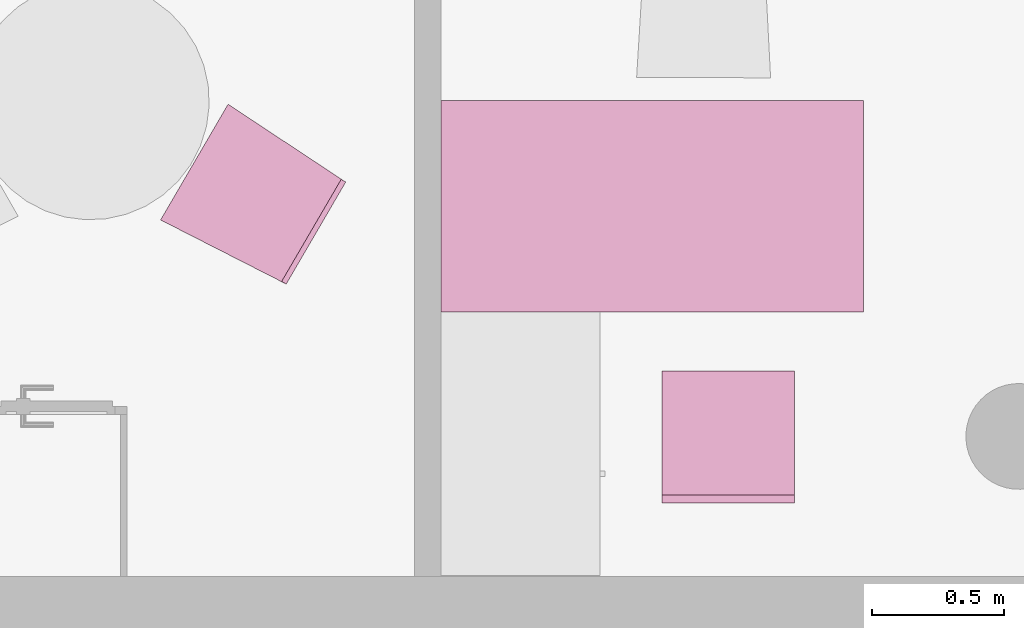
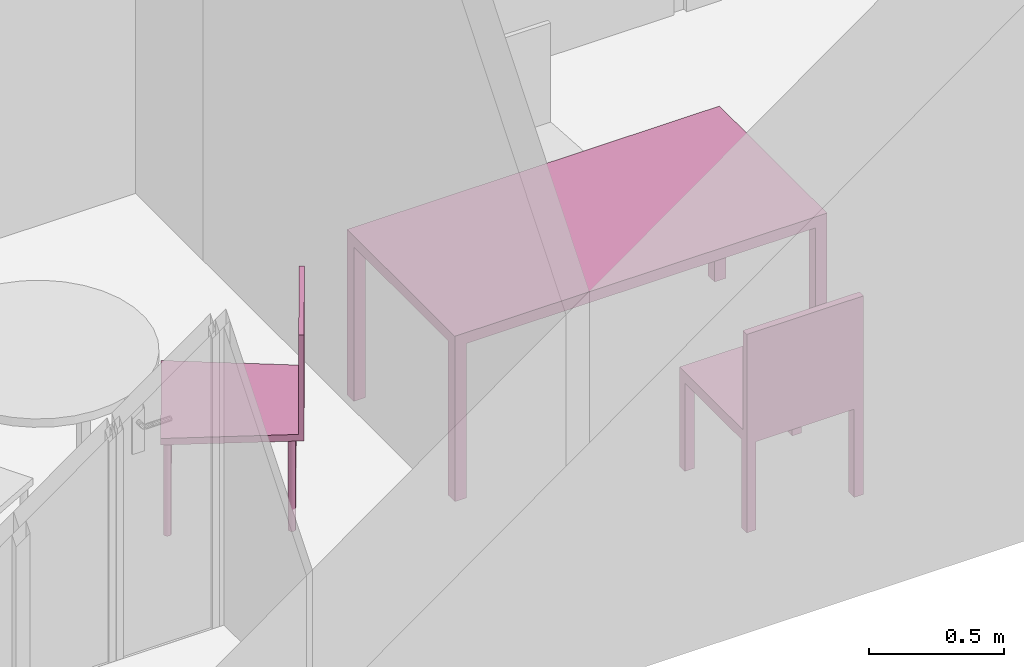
"""IFC4 building model written with IfcOpenShell, lengths in metres."""

from ifc_helpers import new_model, entity, si_unit, converted_unit, derived_unit, frame, origin, place, context, subcontext, project, spatial, faceted_brep, element, save


model = new_model("IFC4")

# Units and contexts
model_context = context("Model", 3, precision=1e-05, world=origin())
body_context = subcontext(model_context, "Body", "Model", "MODEL_VIEW")
ifc_project = project(units=[si_unit("LENGTHUNIT", "METRE"), si_unit("AREAUNIT", "SQUARE_METRE"), si_unit("VOLUMEUNIT", "CUBIC_METRE"), si_unit("MASSUNIT", "GRAM", prefix="KILO"), converted_unit("PLANEANGLEUNIT", "DEGREE", entity("IfcPlaneAngleMeasure", 0.0174532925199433), si_unit("PLANEANGLEUNIT", "RADIAN"), dimensions=[0, 0, 0, 0, 0, 0, 0]), derived_unit("THERMALTRANSMITTANCEUNIT", [(si_unit("POWERUNIT", "WATT"), 1), (si_unit("THERMODYNAMICTEMPERATUREUNIT", "KELVIN"), -1), (si_unit("LENGTHUNIT", "METRE"), -2)]), derived_unit("VOLUMETRICFLOWRATEUNIT", [(si_unit("LENGTHUNIT", "METRE"), 3), (converted_unit("TIMEUNIT", "hour", entity("IfcTimeMeasure", 3600.0), si_unit("TIMEUNIT", "SECOND"), dimensions=[0, 0, 1, 0, 0, 0, 0]), -1), (si_unit("LENGTHUNIT", "METRE"), -1)])], contexts=[model_context])

# Building, storeys
building_placement = place(None, origin())
building = spatial("IfcBuilding", under=ifc_project, at=building_placement, Name="HABITATGE PLURIFAMILIAR", CompositionType="ELEMENT")
storey_1_placement = place(building_placement, frame((0.0, 0.0, 9.26)))
storey_1 = spatial("IfcBuildingStorey", under=building, at=storey_1_placement, Name="PLANTA SEGONA", CompositionType="ELEMENT", Elevation=9.26)
storey_2_placement = place(storey_1_placement, frame((0.0, 0.0, 6.25)))
storey_2 = spatial("IfcBuildingStorey", under=storey_1, at=storey_2_placement, Name="NOU", CompositionType="PARTIAL")

# Furniture
furniture_1_placement = place(storey_2_placement, frame((408.549312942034, 14.1196401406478, -6.3499999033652)))
element("IfcFurniture", 1, at=furniture_1_placement, inside=storey_2, Name="Taula 160X80_P2", context=body_context, shape_type="Brep", body=[
    faceted_brep([(1.546945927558, 0.750069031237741, 0.0), (1.596945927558, 0.750069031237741, 0.0), (1.596945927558, 0.800069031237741, 0.0), (1.546945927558, 0.800069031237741, 0.0), (1.546945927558, 0.800069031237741, 0.7), (1.596945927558, 0.800069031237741, 0.7), (1.596945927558, 0.750069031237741, 0.7), (1.546945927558, 0.750069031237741, 0.7)], [[[0, 1, 2, 3]], [[4, 5, 6, 7]], [[3, 4, 7, 0]], [[2, 5, 4, 3]], [[1, 6, 5, 2]], [[0, 7, 6, 1]]], orient=[[False], [False], [False], [False], [False], [False]]),
    faceted_brep([(1.546945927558, 0.0, 0.0), (1.596945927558, 0.0, 0.0), (1.596945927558, 0.05, 0.0), (1.546945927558, 0.05, 0.0), (1.546945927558, 0.05, 0.7), (1.596945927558, 0.05, 0.7), (1.596945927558, 0.0, 0.7), (1.546945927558, 0.0, 0.7)], [[[0, 1, 2, 3]], [[4, 5, 6, 7]], [[3, 4, 7, 0]], [[2, 5, 4, 3]], [[1, 6, 5, 2]], [[0, 7, 6, 1]]], orient=[[False], [False], [False], [False], [False], [False]]),
    faceted_brep([(0.0, 0.0, 0.7), (1.596945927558, 0.0, 0.7), (1.596945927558, 0.800069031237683, 0.7), (0.0, 0.800069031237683, 0.7), (0.0, 0.800069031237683, 0.75), (1.596945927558, 0.800069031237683, 0.75), (1.596945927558, 0.0, 0.75), (0.0, 0.0, 0.75)], [[[0, 1, 2, 3]], [[4, 5, 6, 7]], [[3, 4, 7, 0]], [[2, 5, 4, 3]], [[1, 6, 5, 2]], [[0, 7, 6, 1]]], orient=[[False], [False], [False], [False], [False], [False]]),
    faceted_brep([(0.0, 0.750069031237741, 0.0), (0.05, 0.750069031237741, 0.0), (0.05, 0.800069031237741, 0.0), (0.0, 0.800069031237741, 0.0), (0.0, 0.800069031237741, 0.7), (0.05, 0.800069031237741, 0.7), (0.05, 0.750069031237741, 0.7), (0.0, 0.750069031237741, 0.7)], [[[0, 1, 2, 3]], [[4, 5, 6, 7]], [[3, 4, 7, 0]], [[2, 5, 4, 3]], [[1, 6, 5, 2]], [[0, 7, 6, 1]]], orient=[[False], [False], [False], [False], [False], [False]]),
    faceted_brep([(0.0, 0.0, 0.0), (0.05, 0.0, 0.0), (0.05, 0.05, 0.0), (0.0, 0.05, 0.0), (0.0, 0.05, 0.7), (0.05, 0.05, 0.7), (0.05, 0.0, 0.7), (0.0, 0.0, 0.7)], [[[0, 1, 2, 3]], [[4, 5, 6, 7]], [[3, 4, 7, 0]], [[2, 5, 4, 3]], [[1, 6, 5, 2]], [[0, 7, 6, 1]]], orient=[[False], [False], [False], [False], [False], [False]]),
])
furniture_2_placement = place(storey_2_placement, frame((409.385012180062, 13.3976027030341, -6.34632642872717)))
element("IfcFurniture", 2, at=furniture_2_placement, inside=storey_2, Name="Cadira d'Oficina_P2", context=body_context, shape_type="Brep", body=[
    faceted_brep([(0.5, 0.5, 0.4), (0.0, 0.500000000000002, 0.4), (0.0, 0.0, 0.4), (0.5, 0.0, 0.4), (0.5, 0.0, 0.45), (0.0, 0.0, 0.45), (0.0, 0.500000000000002, 0.45), (0.5, 0.5, 0.45)], [[[0, 1, 2, 3]], [[4, 5, 6, 7]], [[3, 4, 7, 0]], [[2, 5, 4, 3]], [[1, 6, 5, 2]], [[0, 7, 6, 1]]], orient=[[False], [False], [False], [False], [False], [False]]),
    faceted_brep([(0.0, 0.0400000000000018, 0.0), (0.0, 0.0, 0.0), (0.04, 0.0, 0.0), (0.04, 0.0400000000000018, 0.0), (0.04, 0.0400000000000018, 0.4), (0.04, 0.0, 0.4), (0.0, 0.0, 0.4), (0.0, 0.0400000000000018, 0.4)], [[[0, 1, 2, 3]], [[4, 5, 6, 7]], [[3, 4, 7, 0]], [[2, 5, 4, 3]], [[1, 6, 5, 2]], [[0, 7, 6, 1]]], orient=[[False], [False], [False], [False], [False], [False]]),
    faceted_brep([(0.0, 0.500000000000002, 0.0), (0.0, 0.460000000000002, 0.0), (0.04, 0.460000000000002, 0.0), (0.04, 0.500000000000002, 0.0), (0.04, 0.500000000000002, 0.4), (0.04, 0.460000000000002, 0.4), (0.0, 0.460000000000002, 0.4), (0.0, 0.500000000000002, 0.4)], [[[0, 1, 2, 3]], [[4, 5, 6, 7]], [[3, 4, 7, 0]], [[2, 5, 4, 3]], [[1, 6, 5, 2]], [[0, 7, 6, 1]]], orient=[[False], [False], [False], [False], [False], [False]]),
    faceted_brep([(0.46, 0.04, 0.0), (0.46, 0.0, 0.0), (0.5, 0.0, 0.0), (0.5, 0.04, 0.0), (0.5, 0.04, 0.4), (0.5, 0.0, 0.4), (0.46, 0.0, 0.4), (0.46, 0.04, 0.4)], [[[0, 1, 2, 3]], [[4, 5, 6, 7]], [[3, 4, 7, 0]], [[2, 5, 4, 3]], [[1, 6, 5, 2]], [[0, 7, 6, 1]]], orient=[[False], [False], [False], [False], [False], [False]]),
    faceted_brep([(0.46, 0.5, 0.0), (0.46, 0.46, 0.0), (0.5, 0.46, 0.0), (0.5, 0.5, 0.0), (0.5, 0.5, 0.4), (0.5, 0.46, 0.4), (0.46, 0.46, 0.4), (0.46, 0.5, 0.4)], [[[0, 1, 2, 3]], [[4, 5, 6, 7]], [[3, 4, 7, 0]], [[2, 5, 4, 3]], [[1, 6, 5, 2]], [[0, 7, 6, 1]]], orient=[[False], [False], [False], [False], [False], [False]]),
    faceted_brep([(0.0, 0.0300000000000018, 0.45), (0.0, 0.0, 0.45), (0.5, 0.0, 0.45), (0.5, 0.03, 0.45), (0.5, 0.03, 0.9), (0.5, 0.0, 0.9), (0.0, 0.0, 0.9), (0.0, 0.0300000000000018, 0.9)], [[[0, 1, 2, 3]], [[4, 5, 6, 7]], [[3, 4, 7, 0]], [[2, 5, 4, 3]], [[1, 6, 5, 2]], [[0, 7, 6, 1]]], orient=[[False], [False], [False], [False], [False], [False]]),
])
furniture_3_placement = place(storey_2_placement, frame((407.488532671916, 14.2255875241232, -6.3514820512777)))
element("IfcFurniture", 3, at=furniture_3_placement, inside=storey_2, Name="Cadira confident_P2", context=body_context, shape_type="Brep", body=[
    faceted_brep([(0.257111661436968, 0.633465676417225, 0.0), (0.259466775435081, 0.632354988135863, 0.0), (0.261978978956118, 0.631670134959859, 0.0), (0.264571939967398, 0.63143192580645, 0.0), (0.267166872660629, 0.631647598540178, 0.0), (0.269684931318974, 0.632310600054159, 0.0), (0.272049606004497, 0.633400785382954, 0.0), (0.274189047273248, 0.63488502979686, 0.0), (0.276038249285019, 0.636718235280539, 0.0), (0.277541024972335, 0.638844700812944, 0.0), (0.278651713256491, 0.641199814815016, 0.0), (0.279336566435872, 0.643712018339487, 0.0), (0.279574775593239, 0.646304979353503, 0.0), (0.279359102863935, 0.648899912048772, 0.0), (0.278696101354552, 0.651417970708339, 0.0), (0.277605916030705, 0.653782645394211, 0.0), (0.276121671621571, 0.655922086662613, 0.0), (0.274288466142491, 0.657771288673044, 0.0), (0.272162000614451, 0.659274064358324, 0.0), (0.269806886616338, 0.660384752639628, 0.0), (0.267294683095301, 0.661069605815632, 0.0), (0.264701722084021, 0.661307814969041, 0.0), (0.262106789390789, 0.661092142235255, 0.0), (0.259588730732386, 0.660429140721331, 0.0), (0.257224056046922, 0.659338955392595, 0.0), (0.25508461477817, 0.657854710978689, 0.0), (0.2532354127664, 0.656021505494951, 0.0), (0.251732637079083, 0.653895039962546, 0.0), (0.250621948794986, 0.651539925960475, 0.0), (0.249937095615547, 0.649027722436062, 0.0), (0.24969888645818, 0.646434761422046, 0.0), (0.249914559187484, 0.643839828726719, 0.0), (0.250577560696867, 0.641321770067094, 0.0), (0.251667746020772, 0.63895709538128, 0.0), (0.253151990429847, 0.636817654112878, 0.0), (0.254985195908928, 0.634968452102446, 0.0), (0.257111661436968, 0.633465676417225, 0.448281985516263), (0.254985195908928, 0.634968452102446, 0.448281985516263), (0.253151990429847, 0.636817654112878, 0.448281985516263), (0.251667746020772, 0.63895709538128, 0.448281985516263), (0.250577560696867, 0.641321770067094, 0.448281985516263), (0.249914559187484, 0.643839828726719, 0.448281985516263), (0.24969888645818, 0.646434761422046, 0.448281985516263), (0.249937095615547, 0.649027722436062, 0.448281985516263), (0.250621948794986, 0.651539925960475, 0.448281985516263), (0.251732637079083, 0.653895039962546, 0.448281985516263), (0.2532354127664, 0.656021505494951, 0.448281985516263), (0.25508461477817, 0.657854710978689, 0.448281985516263), (0.257224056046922, 0.659338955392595, 0.448281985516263), (0.259588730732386, 0.660429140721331, 0.448281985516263), (0.262106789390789, 0.661092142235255, 0.448281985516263), (0.264701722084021, 0.661307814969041, 0.448281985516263), (0.267294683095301, 0.661069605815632, 0.448281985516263), (0.269806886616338, 0.660384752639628, 0.448281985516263), (0.272162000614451, 0.659274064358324, 0.448281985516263), (0.274288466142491, 0.657771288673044, 0.448281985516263), (0.276121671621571, 0.655922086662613, 0.448281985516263), (0.277605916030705, 0.653782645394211, 0.448281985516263), (0.278696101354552, 0.651417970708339, 0.448281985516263), (0.279359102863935, 0.648899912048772, 0.448281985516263), (0.279574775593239, 0.646304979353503, 0.448281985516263), (0.279336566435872, 0.643712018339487, 0.448281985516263), (0.278651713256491, 0.641199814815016, 0.448281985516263), (0.277541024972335, 0.638844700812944, 0.448281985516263), (0.276038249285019, 0.636718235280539, 0.448281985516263), (0.274189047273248, 0.63488502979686, 0.448281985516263), (0.272049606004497, 0.633400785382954, 0.448281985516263), (0.269684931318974, 0.632310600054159, 0.448281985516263), (0.267166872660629, 0.631647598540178, 0.448281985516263), (0.264571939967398, 0.63143192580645, 0.448281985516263), (0.261978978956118, 0.631670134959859, 0.448281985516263), (0.259466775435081, 0.632354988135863, 0.448281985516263)], [[[0, 1, 2, 3, 4, 5, 6, 7, 8, 9, 10, 11, 12, 13, 14, 15, 16, 17, 18, 19, 20, 21, 22, 23, 24, 25, 26, 27, 28, 29, 30, 31, 32, 33, 34, 35]], [[36, 37, 38, 39, 40, 41, 42, 43, 44, 45, 46, 47, 48, 49, 50, 51, 52, 53, 54, 55, 56, 57, 58, 59, 60, 61, 62, 63, 64, 65, 66, 67, 68, 69, 70, 71]], [[1, 0, 36, 71]], [[2, 1, 71, 70]], [[3, 2, 70, 69]], [[4, 3, 69, 68]], [[5, 4, 68, 67]], [[6, 5, 67, 66]], [[7, 6, 66, 65]], [[8, 7, 65, 64]], [[9, 8, 64, 63]], [[10, 9, 63, 62]], [[11, 10, 62, 61]], [[12, 11, 61, 60]], [[13, 12, 60, 59]], [[14, 13, 59, 58]], [[15, 14, 58, 57]], [[16, 15, 57, 56]], [[17, 16, 56, 55]], [[18, 17, 55, 54]], [[19, 18, 54, 53]], [[20, 19, 53, 52]], [[21, 20, 52, 51]], [[22, 21, 51, 50]], [[23, 22, 50, 49]], [[24, 23, 49, 48]], [[25, 24, 48, 47]], [[26, 25, 47, 46]], [[27, 26, 46, 45]], [[28, 27, 45, 44]], [[29, 28, 44, 43]], [[30, 29, 43, 42]], [[31, 30, 42, 41]], [[32, 31, 41, 40]], [[33, 32, 40, 39]], [[34, 33, 39, 38]], [[35, 34, 38, 37]], [[0, 35, 37, 36]]], orient=[[False], [False], [False], [False], [False], [False], [False], [False], [False], [False], [False], [False], [False], [False], [False], [False], [False], [False], [False], [False], [False], [False], [False], [False], [False], [False], [False], [False], [False], [False], [False], [False], [False], [False], [False], [False], [False], [False]]),
    faceted_brep([(0.642636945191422, 0.376649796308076, 0.0), (0.644992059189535, 0.375539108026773, 0.0), (0.647504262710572, 0.374854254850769, 0.0), (0.650097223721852, 0.374616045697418, 0.0), (0.652692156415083, 0.374831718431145, 0.0), (0.655210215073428, 0.375494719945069, 0.0), (0.657574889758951, 0.376584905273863, 0.0), (0.659714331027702, 0.37806914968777, 0.0), (0.661563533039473, 0.379902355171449, 0.0), (0.663066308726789, 0.382028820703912, 0.0), (0.664176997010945, 0.384383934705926, 0.0), (0.664861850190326, 0.386896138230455, 0.0), (0.665100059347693, 0.389489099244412, 0.0), (0.664884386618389, 0.392084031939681, 0.0), (0.664221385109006, 0.394602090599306, 0.0), (0.663131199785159, 0.396966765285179, 0.0), (0.661646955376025, 0.399106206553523, 0.0), (0.659813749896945, 0.400955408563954, 0.0), (0.657687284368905, 0.402458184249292, 0.0), (0.655332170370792, 0.403568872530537, 0.0), (0.652819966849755, 0.404253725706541, 0.0), (0.650227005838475, 0.404491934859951, 0.0), (0.647632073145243, 0.404276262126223, 0.0), (0.64511401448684, 0.403613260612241, 0.0), (0.642749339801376, 0.402523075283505, 0.0), (0.640609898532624, 0.401038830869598, 0.0), (0.638760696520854, 0.399205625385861, 0.0), (0.637257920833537, 0.397079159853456, 0.0), (0.636147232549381, 0.394724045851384, 0.0), (0.635462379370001, 0.392211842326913, 0.0), (0.635224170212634, 0.389618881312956, 0.0), (0.635439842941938, 0.387023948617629, 0.0), (0.636102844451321, 0.384505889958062, 0.0), (0.637193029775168, 0.38214121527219, 0.0), (0.638677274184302, 0.380001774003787, 0.0), (0.640510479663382, 0.378152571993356, 0.0), (0.642636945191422, 0.376649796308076, 0.448281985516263), (0.640510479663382, 0.378152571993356, 0.448281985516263), (0.638677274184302, 0.380001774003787, 0.448281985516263), (0.637193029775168, 0.38214121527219, 0.448281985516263), (0.636102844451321, 0.384505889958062, 0.448281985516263), (0.635439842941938, 0.387023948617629, 0.448281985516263), (0.635224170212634, 0.389618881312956, 0.448281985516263), (0.635462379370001, 0.392211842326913, 0.448281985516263), (0.636147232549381, 0.394724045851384, 0.448281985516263), (0.637257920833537, 0.397079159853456, 0.448281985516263), (0.638760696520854, 0.399205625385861, 0.448281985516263), (0.640609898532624, 0.401038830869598, 0.448281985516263), (0.642749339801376, 0.402523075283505, 0.448281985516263), (0.64511401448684, 0.403613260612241, 0.448281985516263), (0.647632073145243, 0.404276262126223, 0.448281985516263), (0.650227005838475, 0.404491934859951, 0.448281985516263), (0.652819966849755, 0.404253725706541, 0.448281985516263), (0.655332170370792, 0.403568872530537, 0.448281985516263), (0.657687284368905, 0.402458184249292, 0.448281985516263), (0.659813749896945, 0.400955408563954, 0.448281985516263), (0.661646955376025, 0.399106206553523, 0.448281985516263), (0.663131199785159, 0.396966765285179, 0.448281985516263), (0.664221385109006, 0.394602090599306, 0.448281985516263), (0.664884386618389, 0.392084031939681, 0.448281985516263), (0.665100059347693, 0.389489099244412, 0.448281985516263), (0.664861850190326, 0.386896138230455, 0.448281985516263), (0.664176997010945, 0.384383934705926, 0.448281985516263), (0.663066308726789, 0.382028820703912, 0.448281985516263), (0.661563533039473, 0.379902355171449, 0.448281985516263), (0.659714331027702, 0.37806914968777, 0.448281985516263), (0.657574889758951, 0.376584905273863, 0.448281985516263), (0.655210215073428, 0.375494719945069, 0.448281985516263), (0.652692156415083, 0.374831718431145, 0.448281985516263), (0.650097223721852, 0.374616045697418, 0.448281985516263), (0.647504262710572, 0.374854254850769, 0.448281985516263), (0.644992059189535, 0.375539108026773, 0.448281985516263)], [[[0, 1, 2, 3, 4, 5, 6, 7, 8, 9, 10, 11, 12, 13, 14, 15, 16, 17, 18, 19, 20, 21, 22, 23, 24, 25, 26, 27, 28, 29, 30, 31, 32, 33, 34, 35]], [[36, 37, 38, 39, 40, 41, 42, 43, 44, 45, 46, 47, 48, 49, 50, 51, 52, 53, 54, 55, 56, 57, 58, 59, 60, 61, 62, 63, 64, 65, 66, 67, 68, 69, 70, 71]], [[1, 0, 36, 71]], [[2, 1, 71, 70]], [[3, 2, 70, 69]], [[4, 3, 69, 68]], [[5, 4, 68, 67]], [[6, 5, 67, 66]], [[7, 6, 66, 65]], [[8, 7, 65, 64]], [[9, 8, 64, 63]], [[10, 9, 63, 62]], [[11, 10, 62, 61]], [[12, 11, 61, 60]], [[13, 12, 60, 59]], [[14, 13, 59, 58]], [[15, 14, 58, 57]], [[16, 15, 57, 56]], [[17, 16, 56, 55]], [[18, 17, 55, 54]], [[19, 18, 54, 53]], [[20, 19, 53, 52]], [[21, 20, 52, 51]], [[22, 21, 51, 50]], [[23, 22, 50, 49]], [[24, 23, 49, 48]], [[25, 24, 48, 47]], [[26, 25, 47, 46]], [[27, 26, 46, 45]], [[28, 27, 45, 44]], [[29, 28, 44, 43]], [[30, 29, 43, 42]], [[31, 30, 42, 41]], [[32, 31, 41, 40]], [[33, 32, 40, 39]], [[34, 33, 39, 38]], [[35, 34, 38, 37]], [[0, 35, 37, 36]]], orient=[[False], [False], [False], [False], [False], [False], [False], [False], [False], [False], [False], [False], [False], [False], [False], [False], [False], [False], [False], [False], [False], [False], [False], [False], [False], [False], [False], [False], [False], [False], [False], [False], [False], [False], [False], [False], [False], [False]]),
    faceted_brep([(0.0253833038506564, 0.236096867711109, 0.0), (0.0277384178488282, 0.234986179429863, 0.0), (0.0302506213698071, 0.234301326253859, 0.0), (0.0328435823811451, 0.23406311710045, 0.0), (0.0354385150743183, 0.234278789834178, 0.0), (0.0379565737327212, 0.234941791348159, 0.0), (0.0403212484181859, 0.236031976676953, 0.0), (0.0424606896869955, 0.237516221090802, 0.0), (0.0443098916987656, 0.239349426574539, 0.0), (0.0458126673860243, 0.241475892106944, 0.0), (0.0469233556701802, 0.243831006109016, 0.0), (0.0476082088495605, 0.246343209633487, 0.0), (0.0478464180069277, 0.248936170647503, 0.0), (0.0476307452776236, 0.251531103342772, 0.0), (0.0469677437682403, 0.254049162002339, 0.0), (0.0458775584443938, 0.256413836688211, 0.0), (0.0443933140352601, 0.258553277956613, 0.0), (0.0425601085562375, 0.260402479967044, 0.0), (0.0404336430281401, 0.261905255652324, 0.0), (0.0380785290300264, 0.263015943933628, 0.0), (0.0355663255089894, 0.263700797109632, 0.0), (0.0329733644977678, 0.263939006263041, 0.0), (0.0303784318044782, 0.263723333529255, 0.0), (0.0278603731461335, 0.263060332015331, 0.0), (0.0254956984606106, 0.261970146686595, 0.0), (0.0233562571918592, 0.260485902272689, 0.0), (0.0215070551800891, 0.258652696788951, 0.0), (0.0200042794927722, 0.256526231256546, 0.0), (0.0188935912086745, 0.254171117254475, 0.0), (0.0182087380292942, 0.251658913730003, 0.0), (0.0179705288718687, 0.249065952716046, 0.0), (0.018186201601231, 0.246471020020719, 0.0), (0.0188492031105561, 0.243952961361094, 0.0), (0.0199393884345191, 0.24158828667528, 0.0), (0.0214236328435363, 0.239448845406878, 0.0), (0.0232568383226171, 0.237599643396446, 0.0), (0.0253833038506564, 0.236096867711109, 0.448281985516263), (0.0232568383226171, 0.237599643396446, 0.448281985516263), (0.0214236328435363, 0.239448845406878, 0.448281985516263), (0.0199393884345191, 0.24158828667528, 0.448281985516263), (0.0188492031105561, 0.243952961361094, 0.448281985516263), (0.018186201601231, 0.246471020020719, 0.448281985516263), (0.0179705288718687, 0.249065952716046, 0.448281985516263), (0.0182087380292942, 0.251658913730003, 0.448281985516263), (0.0188935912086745, 0.254171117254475, 0.448281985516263), (0.0200042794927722, 0.256526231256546, 0.448281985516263), (0.0215070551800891, 0.258652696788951, 0.448281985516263), (0.0233562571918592, 0.260485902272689, 0.448281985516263), (0.0254956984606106, 0.261970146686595, 0.448281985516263), (0.0278603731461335, 0.263060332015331, 0.448281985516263), (0.0303784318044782, 0.263723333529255, 0.448281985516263), (0.0329733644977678, 0.263939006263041, 0.448281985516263), (0.0355663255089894, 0.263700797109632, 0.448281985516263), (0.0380785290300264, 0.263015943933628, 0.448281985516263), (0.0404336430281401, 0.261905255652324, 0.448281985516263), (0.0425601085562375, 0.260402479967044, 0.448281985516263), (0.0443933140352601, 0.258553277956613, 0.448281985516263), (0.0458775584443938, 0.256413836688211, 0.448281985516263), (0.0469677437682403, 0.254049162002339, 0.448281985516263), (0.0476307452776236, 0.251531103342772, 0.448281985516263), (0.0478464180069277, 0.248936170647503, 0.448281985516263), (0.0476082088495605, 0.246343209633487, 0.448281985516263), (0.0469233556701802, 0.243831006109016, 0.448281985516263), (0.0458126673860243, 0.241475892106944, 0.448281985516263), (0.0443098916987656, 0.239349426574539, 0.448281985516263), (0.0424606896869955, 0.237516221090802, 0.448281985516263), (0.0403212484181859, 0.236031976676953, 0.448281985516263), (0.0379565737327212, 0.234941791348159, 0.448281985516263), (0.0354385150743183, 0.234278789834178, 0.448281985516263), (0.0328435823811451, 0.23406311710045, 0.448281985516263), (0.0302506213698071, 0.234301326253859, 0.448281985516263), (0.0277384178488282, 0.234986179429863, 0.448281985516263)], [[[0, 1, 2, 3, 4, 5, 6, 7, 8, 9, 10, 11, 12, 13, 14, 15, 16, 17, 18, 19, 20, 21, 22, 23, 24, 25, 26, 27, 28, 29, 30, 31, 32, 33, 34, 35]], [[36, 37, 38, 39, 40, 41, 42, 43, 44, 45, 46, 47, 48, 49, 50, 51, 52, 53, 54, 55, 56, 57, 58, 59, 60, 61, 62, 63, 64, 65, 66, 67, 68, 69, 70, 71]], [[1, 0, 36, 71]], [[2, 1, 71, 70]], [[3, 2, 70, 69]], [[4, 3, 69, 68]], [[5, 4, 68, 67]], [[6, 5, 67, 66]], [[7, 6, 66, 65]], [[8, 7, 65, 64]], [[9, 8, 64, 63]], [[10, 9, 63, 62]], [[11, 10, 62, 61]], [[12, 11, 61, 60]], [[13, 12, 60, 59]], [[14, 13, 59, 58]], [[15, 14, 58, 57]], [[16, 15, 57, 56]], [[17, 16, 56, 55]], [[18, 17, 55, 54]], [[19, 18, 54, 53]], [[20, 19, 53, 52]], [[21, 20, 52, 51]], [[22, 21, 51, 50]], [[23, 22, 50, 49]], [[24, 23, 49, 48]], [[25, 24, 48, 47]], [[26, 25, 47, 46]], [[27, 26, 46, 45]], [[28, 27, 45, 44]], [[29, 28, 44, 43]], [[30, 29, 43, 42]], [[31, 30, 42, 41]], [[32, 31, 41, 40]], [[33, 32, 40, 39]], [[34, 33, 39, 38]], [[35, 34, 38, 37]], [[0, 35, 37, 36]]], orient=[[False], [False], [False], [False], [False], [False], [False], [False], [False], [False], [False], [False], [False], [False], [False], [False], [False], [False], [False], [False], [False], [False], [False], [False], [False], [False], [False], [False], [False], [False], [False], [False], [False], [False], [False], [False], [False], [False]]),
    faceted_brep([(0.441134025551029, 0.0311117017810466, 0.0), (0.443489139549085, 0.0300010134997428, 0.0), (0.44600134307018, 0.0293161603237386, 0.0), (0.44859430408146, 0.0290779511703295, 0.0), (0.451189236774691, 0.0292936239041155, 0.0), (0.453707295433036, 0.029956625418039, 0.0), (0.456071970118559, 0.0310468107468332, 0.0), (0.45821141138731, 0.0325310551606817, 0.0), (0.46006061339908, 0.0343642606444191, 0.0), (0.461563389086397, 0.036490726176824, 0.0), (0.462674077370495, 0.0388458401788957, 0.0), (0.463358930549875, 0.041358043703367, 0.0), (0.463597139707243, 0.0439510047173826, 0.0), (0.463381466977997, 0.0465459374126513, 0.0), (0.462718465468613, 0.0490639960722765, 0.0), (0.461628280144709, 0.0514286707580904, 0.0), (0.460144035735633, 0.0535681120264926, 0.0), (0.458310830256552, 0.0554173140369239, 0.0), (0.456184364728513, 0.0569200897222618, 0.0), (0.453829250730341, 0.0580307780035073, 0.0), (0.451317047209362, 0.0587156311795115, 0.0), (0.448724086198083, 0.0589538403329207, 0.0), (0.446129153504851, 0.0587381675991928, 0.0), (0.443611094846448, 0.0580751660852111, 0.0), (0.441246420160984, 0.0569849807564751, 0.0), (0.439106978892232, 0.0555007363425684, 0.0), (0.437257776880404, 0.053667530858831, 0.0), (0.435755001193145, 0.0515410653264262, 0.0), (0.434644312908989, 0.0491859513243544, 0.0), (0.433959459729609, 0.0466737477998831, 0.0), (0.433721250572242, 0.0440807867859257, 0.0), (0.433936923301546, 0.0414858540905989, 0.0), (0.434599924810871, 0.0389677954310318, 0.0), (0.435690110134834, 0.0366031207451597, 0.0), (0.437174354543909, 0.0344636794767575, 0.0), (0.439007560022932, 0.0326144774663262, 0.0), (0.441134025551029, 0.0311117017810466, 0.448281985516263), (0.439007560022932, 0.0326144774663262, 0.448281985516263), (0.437174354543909, 0.0344636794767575, 0.448281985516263), (0.435690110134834, 0.0366031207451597, 0.448281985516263), (0.434599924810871, 0.0389677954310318, 0.448281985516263), (0.433936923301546, 0.0414858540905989, 0.448281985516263), (0.433721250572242, 0.0440807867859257, 0.448281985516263), (0.433959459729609, 0.0466737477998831, 0.448281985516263), (0.434644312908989, 0.0491859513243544, 0.448281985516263), (0.435755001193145, 0.0515410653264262, 0.448281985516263), (0.437257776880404, 0.053667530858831, 0.448281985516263), (0.439106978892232, 0.0555007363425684, 0.448281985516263), (0.441246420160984, 0.0569849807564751, 0.448281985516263), (0.443611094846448, 0.0580751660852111, 0.448281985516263), (0.446129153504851, 0.0587381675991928, 0.448281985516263), (0.448724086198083, 0.0589538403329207, 0.448281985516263), (0.451317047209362, 0.0587156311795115, 0.448281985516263), (0.453829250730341, 0.0580307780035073, 0.448281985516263), (0.456184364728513, 0.0569200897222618, 0.448281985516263), (0.458310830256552, 0.0554173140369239, 0.448281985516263), (0.460144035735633, 0.0535681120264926, 0.448281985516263), (0.461628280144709, 0.0514286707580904, 0.448281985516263), (0.462718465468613, 0.0490639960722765, 0.448281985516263), (0.463381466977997, 0.0465459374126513, 0.448281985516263), (0.463597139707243, 0.0439510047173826, 0.448281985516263), (0.463358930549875, 0.041358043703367, 0.448281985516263), (0.462674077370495, 0.0388458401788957, 0.448281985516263), (0.461563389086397, 0.036490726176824, 0.448281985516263), (0.46006061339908, 0.0343642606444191, 0.448281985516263), (0.45821141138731, 0.0325310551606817, 0.448281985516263), (0.456071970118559, 0.0310468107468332, 0.448281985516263), (0.453707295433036, 0.029956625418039, 0.448281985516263), (0.451189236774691, 0.0292936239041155, 0.448281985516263), (0.44859430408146, 0.0290779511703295, 0.448281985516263), (0.44600134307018, 0.0293161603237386, 0.448281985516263), (0.443489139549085, 0.0300010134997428, 0.448281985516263)], [[[0, 1, 2, 3, 4, 5, 6, 7, 8, 9, 10, 11, 12, 13, 14, 15, 16, 17, 18, 19, 20, 21, 22, 23, 24, 25, 26, 27, 28, 29, 30, 31, 32, 33, 34, 35]], [[36, 37, 38, 39, 40, 41, 42, 43, 44, 45, 46, 47, 48, 49, 50, 51, 52, 53, 54, 55, 56, 57, 58, 59, 60, 61, 62, 63, 64, 65, 66, 67, 68, 69, 70, 71]], [[1, 0, 36, 71]], [[2, 1, 71, 70]], [[3, 2, 70, 69]], [[4, 3, 69, 68]], [[5, 4, 68, 67]], [[6, 5, 67, 66]], [[7, 6, 66, 65]], [[8, 7, 65, 64]], [[9, 8, 64, 63]], [[10, 9, 63, 62]], [[11, 10, 62, 61]], [[12, 11, 61, 60]], [[13, 12, 60, 59]], [[14, 13, 59, 58]], [[15, 14, 58, 57]], [[16, 15, 57, 56]], [[17, 16, 56, 55]], [[18, 17, 55, 54]], [[19, 18, 54, 53]], [[20, 19, 53, 52]], [[21, 20, 52, 51]], [[22, 21, 51, 50]], [[23, 22, 50, 49]], [[24, 23, 49, 48]], [[25, 24, 48, 47]], [[26, 25, 47, 46]], [[27, 26, 46, 45]], [[28, 27, 45, 44]], [[29, 28, 44, 43]], [[30, 29, 43, 42]], [[31, 30, 42, 41]], [[32, 31, 41, 40]], [[33, 32, 40, 39]], [[34, 33, 39, 38]], [[35, 34, 38, 37]], [[0, 35, 37, 36]]], orient=[[False], [False], [False], [False], [False], [False], [False], [False], [False], [False], [False], [False], [False], [False], [False], [False], [False], [False], [False], [False], [False], [False], [False], [False], [False], [False], [False], [False], [False], [False], [False], [False], [False], [False], [False], [False], [False], [False]]),
    faceted_brep([(0.475203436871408, 0.0, 0.418281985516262), (0.700138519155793, 0.385719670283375, 0.418281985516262), (0.255160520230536, 0.679940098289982, 0.418281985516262), (0.0, 0.242389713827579, 0.418281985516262), (0.0, 0.242389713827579, 0.448281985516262), (0.255160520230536, 0.679940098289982, 0.448281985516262), (0.700138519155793, 0.385719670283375, 0.448281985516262), (0.475203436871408, 0.0, 0.448281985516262)], [[[0, 1, 2, 3]], [[4, 5, 6, 7]], [[3, 4, 7, 0]], [[2, 5, 4, 3]], [[1, 6, 5, 2]], [[0, 7, 6, 1]]], orient=[[False], [False], [False], [False], [False], [False]]),
    faceted_brep([(0.457926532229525, 0.0100751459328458, 0.448281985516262), (0.475203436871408, 0.0, 0.448281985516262), (0.700138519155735, 0.385719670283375, 0.448281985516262), (0.682861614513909, 0.395794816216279, 0.448281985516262), (0.682861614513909, 0.395794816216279, 0.898281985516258), (0.700138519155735, 0.385719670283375, 0.898281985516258), (0.475203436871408, 0.0, 0.898281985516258), (0.457926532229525, 0.0100751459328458, 0.898281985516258)], [[[0, 1, 2, 3]], [[4, 5, 6, 7]], [[3, 4, 7, 0]], [[2, 5, 4, 3]], [[1, 6, 5, 2]], [[0, 7, 6, 1]]], orient=[[False], [False], [False], [False], [False], [False]]),
])

save(model, "model.ifc")
